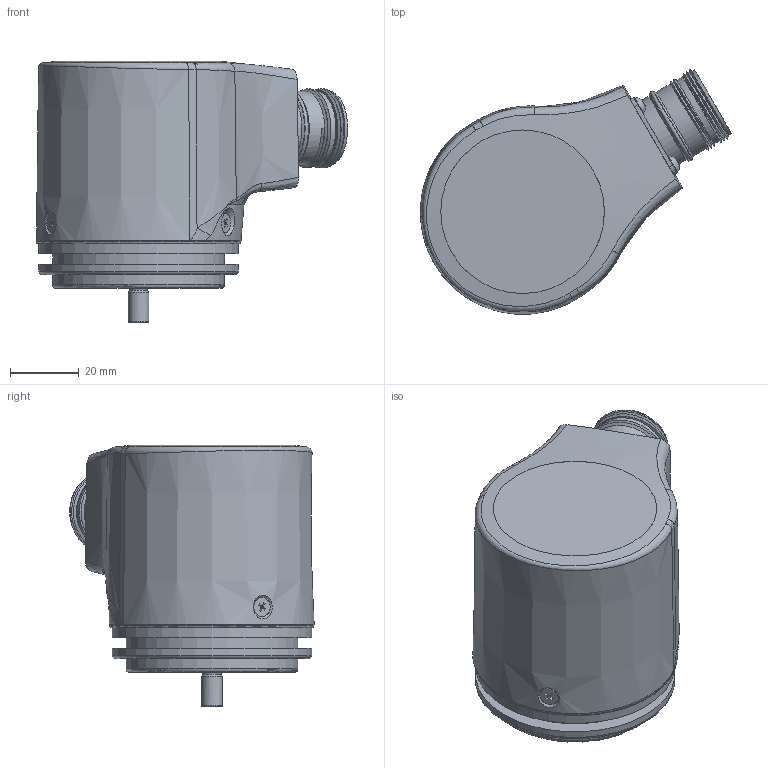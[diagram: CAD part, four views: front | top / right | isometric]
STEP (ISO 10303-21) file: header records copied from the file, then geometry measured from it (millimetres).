
FILE_DESCRIPTION(/* description */ ('Unknown'),/* implementation_level */ '2;1');
FILE_NAME(/* name */ 'eeEA_EAMR_58_B_HAR',/* time_stamp */ '2018-04-19T15:13:51+02:00',/* author */ ('Unknown'),/* organization */ ('Unknown'),/* preprocessor_version */ 'ST-DEVELOPER v16.7',/* originating_system */ 'DEX',/* authorisation */ $);
FILE_SCHEMA (('AUTOMOTIVE_DESIGN {1 0 10303 214 3 1 1}'));
Length unit declared in the file: millimetre
Products named in the file (1): EA_EAMR_58_B_HAR
Bounding box: 90.55 x 71.12 x 76 mm (x, y, z)
Volume: 93782.2 mm3; surface area: 48146.6 mm2
Topology: 2 solids, 18 shells, 498 faces, 1230 edges, 806 vertices
Faces by surface type: plane 236, cylinder 137, cone 67, torus 25, bspline 21, sphere 12
Full cylindrical faces by diameter (mm): 1 x12, 1.15 x12, 1.65 x12, 2.013 x7, 2.459 x7, 3 x10, 3.1 x4, 3.3 x6, 3.4 x3, 5.6 x3, 6 x5, 8 x6, 10 x1, 10.4 x1, 18.5 x1, 19.25 x1, 20 x1, 21.5 x6, 22 x3, 22.1 x2, 22.667 x1, 22.691 x1, 29 x2, 50 x2, 51.2 x1, 54 x3, 56 x1, 58 x2, 59.5 x1
Entity records: 19402 total; most frequent: CARTESIAN_POINT 6183, DIRECTION 1993, ORIENTED_EDGE 1700, AXIS2_PLACEMENT_3D 851, EDGE_CURVE 850, FACE_BOUND 800, EDGE_LOOP 779, VERTEX_POINT 674
